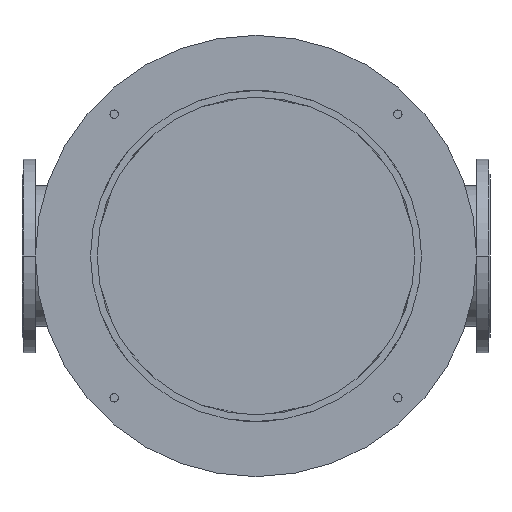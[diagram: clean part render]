
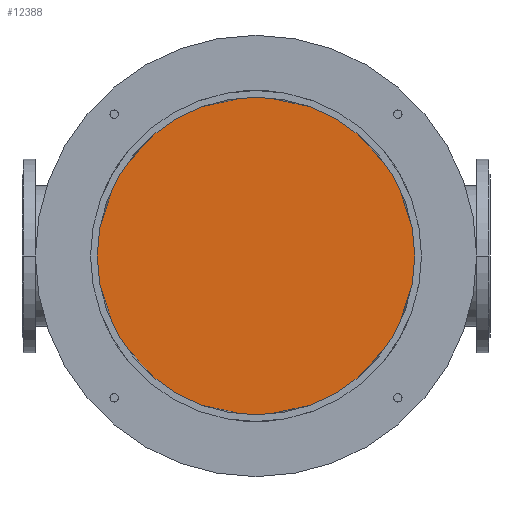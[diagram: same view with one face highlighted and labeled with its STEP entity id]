
A CAD part, front view. The second image highlights one B-rep face of the part: STEP entity #12388.
In plain terms, the highlighted planar face has unit normal (0, -1, 0).
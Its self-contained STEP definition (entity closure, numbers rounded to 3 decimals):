
#3005=CARTESIAN_POINT('',(0.,1466.,0.));
#3006=DIRECTION('',(0.,-1.,0.));
#3007=DIRECTION('',(0.,0.,-1.));
#3008=AXIS2_PLACEMENT_3D('',#3005,#3006,#3007);
#3047=CARTESIAN_POINT('',(0.,1466.,0.));
#3048=DIRECTION('',(0.,-1.,0.));
#3049=DIRECTION('',(0.,0.,1.));
#3050=AXIS2_PLACEMENT_3D('',#3047,#3048,#3049);
#7547=CARTESIAN_POINT('',(0.,1466.,560.));
#7548=CARTESIAN_POINT('',(0.,1466.,-560.));
#7549=VERTEX_POINT('',#7547);
#7550=VERTEX_POINT('',#7548);
#12379=CARTESIAN_POINT('',(0.,1466.,0.));
#12380=DIRECTION('',(0.,1.,0.));
#12381=DIRECTION('',(0.,0.,-1.));
#12382=AXIS2_PLACEMENT_3D('',#12379,#12380,#12381);
#12383=PLANE('',#12382);
#12384=ORIENTED_EDGE('',*,*,#12362,.F.);
#12385=ORIENTED_EDGE('',*,*,#12290,.F.);
#12386=EDGE_LOOP('',(#12384,#12385));
#12387=FACE_OUTER_BOUND('',#12386,.F.);
#12388=ADVANCED_FACE('',(#12387),#12383,.F.);
#3009=CIRCLE('',#3008,560.);
#3051=CIRCLE('',#3050,560.);
#12290=EDGE_CURVE('',#7550,#7549,#3009,.T.);
#12362=EDGE_CURVE('',#7549,#7550,#3051,.T.);
